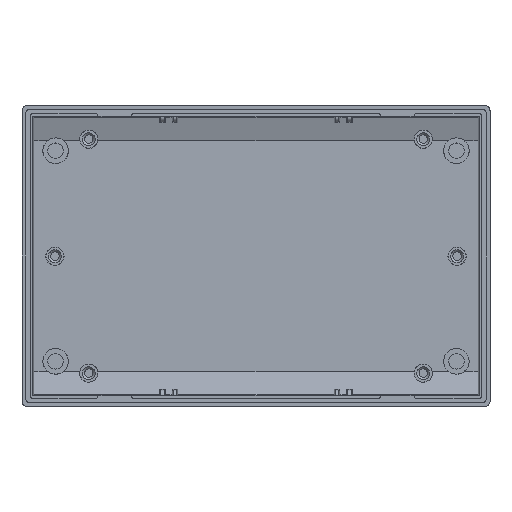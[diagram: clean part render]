
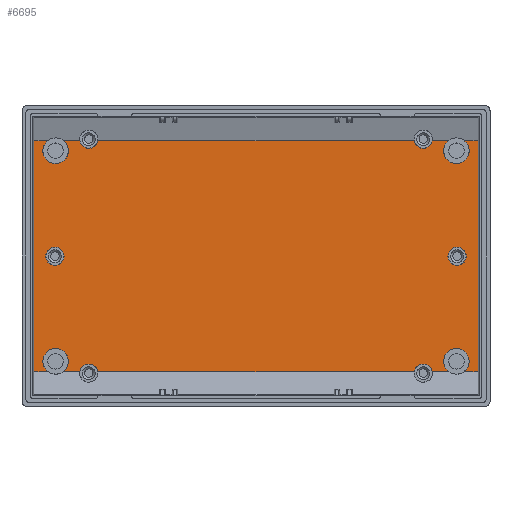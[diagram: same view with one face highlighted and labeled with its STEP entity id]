
A CAD part, top view. The second image highlights one B-rep face of the part: STEP entity #6695.
In plain terms, the highlighted planar face has unit normal (0, 0, 1).
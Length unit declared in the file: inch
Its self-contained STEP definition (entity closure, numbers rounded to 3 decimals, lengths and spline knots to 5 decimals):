
#4452=CARTESIAN_POINT('',(2.60941,-1.35855,-1.19));
#4453=VERTEX_POINT('',#4452);
#4460=CARTESIAN_POINT('',(2.44359,-1.35855,-1.19));
#4461=VERTEX_POINT('',#4460);
#4462=CARTESIAN_POINT('',(2.60941,-1.35855,-1.19));
#4463=DIRECTION('',(-1.0,0.0,0.0));
#4464=VECTOR('',#4463,0.16582);
#4465=LINE('',#4462,#4464);
#4466=EDGE_CURVE('',#4461,#4453,#4465,.F.);
#4468=CARTESIAN_POINT('',(2.26641,-1.35855,-1.19));
#4469=VERTEX_POINT('',#4468);
#4477=CARTESIAN_POINT('',(2.07123,-1.35855,-1.19));
#4478=VERTEX_POINT('',#4477);
#4479=CARTESIAN_POINT('',(2.26641,-1.35855,-1.19));
#4480=DIRECTION('',(-1.0,0.0,0.0));
#4481=VECTOR('',#4480,0.19518);
#4482=LINE('',#4479,#4481);
#4483=EDGE_CURVE('',#4478,#4469,#4482,.F.);
#4485=CARTESIAN_POINT('',(1.85877,-1.35855,-1.19));
#4486=VERTEX_POINT('',#4485);
#4494=CARTESIAN_POINT('',(-1.85877,-1.35855,-1.19));
#4495=VERTEX_POINT('',#4494);
#4496=CARTESIAN_POINT('',(1.85877,-1.35855,-1.19));
#4497=DIRECTION('',(-1.0,0.0,0.0));
#4498=VECTOR('',#4497,3.71753);
#4499=LINE('',#4496,#4498);
#4500=EDGE_CURVE('',#4495,#4486,#4499,.F.);
#4502=CARTESIAN_POINT('',(-2.07123,-1.35855,-1.19));
#4503=VERTEX_POINT('',#4502);
#4511=CARTESIAN_POINT('',(-2.26641,-1.35855,-1.19));
#4512=VERTEX_POINT('',#4511);
#4513=CARTESIAN_POINT('',(-2.07123,-1.35855,-1.19));
#4514=DIRECTION('',(-1.0,0.0,0.0));
#4515=VECTOR('',#4514,0.19518);
#4516=LINE('',#4513,#4515);
#4517=EDGE_CURVE('',#4512,#4503,#4516,.F.);
#4519=CARTESIAN_POINT('',(-2.44359,-1.35855,-1.19));
#4520=VERTEX_POINT('',#4519);
#4528=CARTESIAN_POINT('',(-2.60941,-1.35855,-1.19));
#4529=VERTEX_POINT('',#4528);
#4530=CARTESIAN_POINT('',(-2.44359,-1.35855,-1.19));
#4531=DIRECTION('',(-1.0,0.0,0.0));
#4532=VECTOR('',#4531,0.16582);
#4533=LINE('',#4530,#4532);
#4534=EDGE_CURVE('',#4529,#4520,#4533,.F.);
#6405=CARTESIAN_POINT('',(2.355,-1.2375,-1.19));
#6406=DIRECTION('',(0.0,0.0,-1.0));
#6407=DIRECTION('',(-1.0,0.0,0.0));
#6408=AXIS2_PLACEMENT_3D('',#6405,#6406,#6407);
#6409=CIRCLE('',#6408,0.15);
#6410=EDGE_CURVE('',#4469,#4461,#6409,.T.);
#6443=CARTESIAN_POINT('',(2.26641,1.35855,-1.19));
#6444=VERTEX_POINT('',#6443);
#6445=CARTESIAN_POINT('',(2.44359,1.35855,-1.19));
#6446=VERTEX_POINT('',#6445);
#6454=CARTESIAN_POINT('',(2.355,1.2375,-1.19));
#6455=DIRECTION('',(0.0,0.0,-1.0));
#6456=DIRECTION('',(-1.0,0.0,0.0));
#6457=AXIS2_PLACEMENT_3D('',#6454,#6455,#6456);
#6458=CIRCLE('',#6457,0.15);
#6459=EDGE_CURVE('',#6446,#6444,#6458,.T.);
#6492=CARTESIAN_POINT('',(-2.44359,1.35855,-1.19));
#6493=VERTEX_POINT('',#6492);
#6494=CARTESIAN_POINT('',(-2.26641,1.35855,-1.19));
#6495=VERTEX_POINT('',#6494);
#6503=CARTESIAN_POINT('',(-2.355,1.2375,-1.19));
#6504=DIRECTION('',(0.0,0.0,-1.0));
#6505=DIRECTION('',(-1.0,0.0,0.0));
#6506=AXIS2_PLACEMENT_3D('',#6503,#6504,#6505);
#6507=CIRCLE('',#6506,0.15);
#6508=EDGE_CURVE('',#6495,#6493,#6507,.T.);
#6542=CARTESIAN_POINT('',(-2.355,-1.2375,-1.19));
#6543=DIRECTION('',(0.0,0.0,-1.0));
#6544=DIRECTION('',(-1.0,0.0,0.0));
#6545=AXIS2_PLACEMENT_3D('',#6542,#6543,#6544);
#6546=CIRCLE('',#6545,0.15);
#6547=EDGE_CURVE('',#4520,#4512,#6546,.T.);
#6575=CARTESIAN_POINT('',(0.,0.,-1.19));
#6576=DIRECTION('',(0.0,0.0,1.0));
#6577=DIRECTION('',(1.0,0.0,0.0));
#6578=AXIS2_PLACEMENT_3D('',#6575,#6576,#6577);
#6579=PLANE('',#6578);
#6580=ORIENTED_EDGE('',*,*,#6410,.T.);
#6581=ORIENTED_EDGE('',*,*,#4466,.T.);
#6582=CARTESIAN_POINT('',(2.60941,1.35855,-1.19));
#6583=VERTEX_POINT('',#6582);
#6584=CARTESIAN_POINT('',(2.60941,1.35855,-1.19));
#6585=DIRECTION('',(0.0,-1.0,0.0));
#6586=VECTOR('',#6585,2.71709);
#6587=LINE('',#6584,#6586);
#6588=EDGE_CURVE('',#6583,#4453,#6587,.T.);
#6589=ORIENTED_EDGE('',*,*,#6588,.F.);
#6590=CARTESIAN_POINT('',(2.60941,1.35855,-1.19));
#6591=DIRECTION('',(-1.0,0.0,0.0));
#6592=VECTOR('',#6591,0.16582);
#6593=LINE('',#6590,#6592);
#6594=EDGE_CURVE('',#6446,#6583,#6593,.F.);
#6595=ORIENTED_EDGE('',*,*,#6594,.F.);
#6596=ORIENTED_EDGE('',*,*,#6459,.T.);
#6597=CARTESIAN_POINT('',(2.07123,1.35855,-1.19));
#6598=VERTEX_POINT('',#6597);
#6599=CARTESIAN_POINT('',(2.26641,1.35855,-1.19));
#6600=DIRECTION('',(-1.0,0.0,0.0));
#6601=VECTOR('',#6600,0.19518);
#6602=LINE('',#6599,#6601);
#6603=EDGE_CURVE('',#6598,#6444,#6602,.F.);
#6604=ORIENTED_EDGE('',*,*,#6603,.F.);
#6605=CARTESIAN_POINT('',(1.85877,1.35855,-1.19));
#6606=VERTEX_POINT('',#6605);
#6607=CARTESIAN_POINT('',(1.965,1.375,-1.19));
#6608=DIRECTION('',(0.0,0.0,-1.0));
#6609=DIRECTION('',(-1.0,0.0,0.0));
#6610=AXIS2_PLACEMENT_3D('',#6607,#6608,#6609);
#6611=CIRCLE('',#6610,0.1075);
#6612=EDGE_CURVE('',#6598,#6606,#6611,.T.);
#6613=ORIENTED_EDGE('',*,*,#6612,.T.);
#6614=CARTESIAN_POINT('',(-1.85877,1.35855,-1.19));
#6615=VERTEX_POINT('',#6614);
#6616=CARTESIAN_POINT('',(1.85877,1.35855,-1.19));
#6617=DIRECTION('',(-1.0,0.0,0.0));
#6618=VECTOR('',#6617,3.71753);
#6619=LINE('',#6616,#6618);
#6620=EDGE_CURVE('',#6615,#6606,#6619,.F.);
#6621=ORIENTED_EDGE('',*,*,#6620,.F.);
#6622=CARTESIAN_POINT('',(-2.07123,1.35855,-1.19));
#6623=VERTEX_POINT('',#6622);
#6624=CARTESIAN_POINT('',(-1.965,1.375,-1.19));
#6625=DIRECTION('',(0.0,0.0,-1.0));
#6626=DIRECTION('',(-1.0,0.0,0.0));
#6627=AXIS2_PLACEMENT_3D('',#6624,#6625,#6626);
#6628=CIRCLE('',#6627,0.1075);
#6629=EDGE_CURVE('',#6615,#6623,#6628,.T.);
#6630=ORIENTED_EDGE('',*,*,#6629,.T.);
#6631=CARTESIAN_POINT('',(-2.07123,1.35855,-1.19));
#6632=DIRECTION('',(-1.0,0.0,0.0));
#6633=VECTOR('',#6632,0.19518);
#6634=LINE('',#6631,#6633);
#6635=EDGE_CURVE('',#6495,#6623,#6634,.F.);
#6636=ORIENTED_EDGE('',*,*,#6635,.F.);
#6637=ORIENTED_EDGE('',*,*,#6508,.T.);
#6638=CARTESIAN_POINT('',(-2.60941,1.35855,-1.19));
#6639=VERTEX_POINT('',#6638);
#6640=CARTESIAN_POINT('',(-2.44359,1.35855,-1.19));
#6641=DIRECTION('',(-1.0,0.0,0.0));
#6642=VECTOR('',#6641,0.16582);
#6643=LINE('',#6640,#6642);
#6644=EDGE_CURVE('',#6639,#6493,#6643,.F.);
#6645=ORIENTED_EDGE('',*,*,#6644,.F.);
#6646=CARTESIAN_POINT('',(-2.60941,1.35855,-1.19));
#6647=DIRECTION('',(0.0,-1.0,0.0));
#6648=VECTOR('',#6647,2.71709);
#6649=LINE('',#6646,#6648);
#6650=EDGE_CURVE('',#6639,#4529,#6649,.T.);
#6651=ORIENTED_EDGE('',*,*,#6650,.T.);
#6652=ORIENTED_EDGE('',*,*,#4534,.T.);
#6653=ORIENTED_EDGE('',*,*,#6547,.T.);
#6654=ORIENTED_EDGE('',*,*,#4517,.T.);
#6655=CARTESIAN_POINT('',(-1.965,-1.375,-1.19));
#6656=DIRECTION('',(0.0,0.0,-1.0));
#6657=DIRECTION('',(-1.0,0.0,0.0));
#6658=AXIS2_PLACEMENT_3D('',#6655,#6656,#6657);
#6659=CIRCLE('',#6658,0.1075);
#6660=EDGE_CURVE('',#4503,#4495,#6659,.T.);
#6661=ORIENTED_EDGE('',*,*,#6660,.T.);
#6662=ORIENTED_EDGE('',*,*,#4500,.T.);
#6663=CARTESIAN_POINT('',(1.965,-1.375,-1.19));
#6664=DIRECTION('',(0.0,0.0,-1.0));
#6665=DIRECTION('',(-1.0,0.0,0.0));
#6666=AXIS2_PLACEMENT_3D('',#6663,#6664,#6665);
#6667=CIRCLE('',#6666,0.1075);
#6668=EDGE_CURVE('',#4486,#4478,#6667,.T.);
#6669=ORIENTED_EDGE('',*,*,#6668,.T.);
#6670=ORIENTED_EDGE('',*,*,#4483,.T.);
#6671=EDGE_LOOP('',(#6580,#6581,#6589,#6595,#6596,#6604,#6613,#6621,#6630,#6636,#6637,#6645,#6651,#6652,#6653,#6654,#6661,#6662,#6669,#6670));
#6672=FACE_OUTER_BOUND('',#6671,.T.);
#6673=CARTESIAN_POINT('',(-2.255,0.,-1.19));
#6674=VERTEX_POINT('',#6673);
#6675=CARTESIAN_POINT('',(-2.3625,0.,-1.19));
#6676=DIRECTION('',(0.0,0.0,-1.0));
#6677=DIRECTION('',(-1.0,0.0,0.0));
#6678=AXIS2_PLACEMENT_3D('',#6675,#6676,#6677);
#6679=CIRCLE('',#6678,0.1075);
#6680=EDGE_CURVE('',#6674,#6674,#6679,.T.);
#6681=ORIENTED_EDGE('',*,*,#6680,.T.);
#6682=EDGE_LOOP('',(#6681));
#6683=FACE_BOUND('',#6682,.T.);
#6684=CARTESIAN_POINT('',(2.47,0.,-1.19));
#6685=VERTEX_POINT('',#6684);
#6686=CARTESIAN_POINT('',(2.3625,0.,-1.19));
#6687=DIRECTION('',(0.0,0.0,-1.0));
#6688=DIRECTION('',(-1.0,0.0,0.0));
#6689=AXIS2_PLACEMENT_3D('',#6686,#6687,#6688);
#6690=CIRCLE('',#6689,0.1075);
#6691=EDGE_CURVE('',#6685,#6685,#6690,.T.);
#6692=ORIENTED_EDGE('',*,*,#6691,.T.);
#6693=EDGE_LOOP('',(#6692));
#6694=FACE_BOUND('',#6693,.T.);
#6695=ADVANCED_FACE('',(#6672,#6683,#6694),#6579,.T.);
